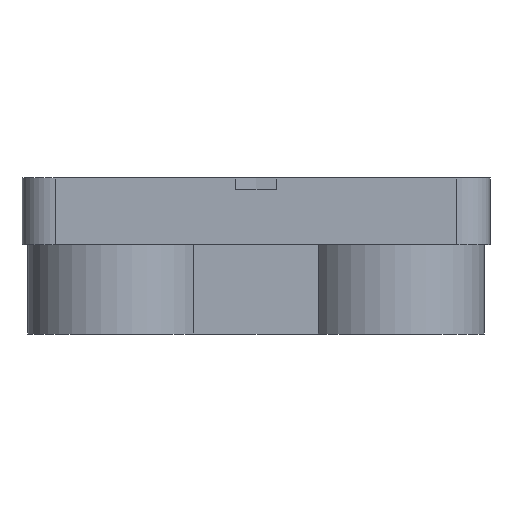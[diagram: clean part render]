
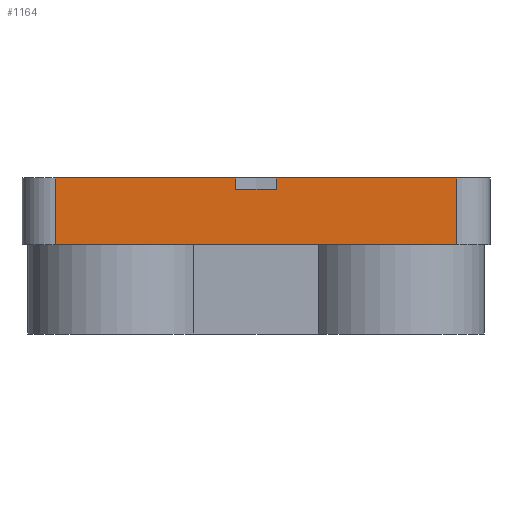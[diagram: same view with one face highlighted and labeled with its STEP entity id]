
A CAD part, left-side view. The second image highlights one B-rep face of the part: STEP entity #1164.
In plain terms, the highlighted planar face has unit normal (-1, 0, 0).
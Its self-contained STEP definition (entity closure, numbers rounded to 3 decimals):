
#279 = PLANE('',#280);
#280 = AXIS2_PLACEMENT_3D('',#281,#282,#283);
#281 = CARTESIAN_POINT('',(10.,0.,0.));
#282 = DIRECTION('',(0.,0.,1.));
#283 = DIRECTION('',(1.,0.,0.));
#599 = EDGE_CURVE('',#600,#602,#604,.T.);
#600 = VERTEX_POINT('',#601);
#601 = CARTESIAN_POINT('',(-20.,-18.,0.));
#602 = VERTEX_POINT('',#603);
#603 = CARTESIAN_POINT('',(-20.,18.,0.));
#604 = SURFACE_CURVE('',#605,(#609,#616),.PCURVE_S1.);
#605 = LINE('',#606,#607);
#606 = CARTESIAN_POINT('',(-20.,0.,0.));
#607 = VECTOR('',#608,1.);
#608 = DIRECTION('',(0.,1.,0.));
#609 = PCURVE('',#279,#610);
#610 = DEFINITIONAL_REPRESENTATION('',(#611),#615);
#611 = LINE('',#612,#613);
#612 = CARTESIAN_POINT('',(-30.,0.));
#613 = VECTOR('',#614,1.);
#614 = DIRECTION('',(0.,1.));
#615 = ( GEOMETRIC_REPRESENTATION_CONTEXT(2) 
PARAMETRIC_REPRESENTATION_CONTEXT() REPRESENTATION_CONTEXT('2D SPACE',''
  ) );
#616 = PCURVE('',#617,#622);
#617 = PLANE('',#618);
#618 = AXIS2_PLACEMENT_3D('',#619,#620,#621);
#619 = CARTESIAN_POINT('',(-20.,-18.,0.));
#620 = DIRECTION('',(-1.,0.,0.));
#621 = DIRECTION('',(0.,1.,0.));
#622 = DEFINITIONAL_REPRESENTATION('',(#623),#627);
#623 = LINE('',#624,#625);
#624 = CARTESIAN_POINT('',(18.,0.));
#625 = VECTOR('',#626,1.);
#626 = DIRECTION('',(1.,0.));
#627 = ( GEOMETRIC_REPRESENTATION_CONTEXT(2) 
PARAMETRIC_REPRESENTATION_CONTEXT() REPRESENTATION_CONTEXT('2D SPACE',''
  ) );
#650 = CYLINDRICAL_SURFACE('',#651,3.);
#651 = AXIS2_PLACEMENT_3D('',#652,#653,#654);
#652 = CARTESIAN_POINT('',(-17.,-18.,0.));
#653 = DIRECTION('',(0.,0.,-1.));
#654 = DIRECTION('',(-1.,0.,0.));
#850 = CYLINDRICAL_SURFACE('',#851,3.);
#851 = AXIS2_PLACEMENT_3D('',#852,#853,#854);
#852 = CARTESIAN_POINT('',(-17.,18.,0.));
#853 = DIRECTION('',(0.,0.,-1.));
#854 = DIRECTION('',(-1.,0.,0.));
#1129 = PLANE('',#1130);
#1130 = AXIS2_PLACEMENT_3D('',#1131,#1132,#1133);
#1131 = CARTESIAN_POINT('',(10.,0.,6.));
#1132 = DIRECTION('',(0.,0.,1.));
#1133 = DIRECTION('',(1.,0.,0.));
#1164 = ADVANCED_FACE('',(#1165),#617,.T.);
#1165 = FACE_BOUND('',#1166,.T.);
#1166 = EDGE_LOOP('',(#1167,#1168,#1191,#1219,#1245,#1271,#1297,#1320));
#1167 = ORIENTED_EDGE('',*,*,#599,.F.);
#1168 = ORIENTED_EDGE('',*,*,#1169,.T.);
#1169 = EDGE_CURVE('',#600,#1170,#1172,.T.);
#1170 = VERTEX_POINT('',#1171);
#1171 = CARTESIAN_POINT('',(-20.,-18.,6.));
#1172 = SURFACE_CURVE('',#1173,(#1177,#1184),.PCURVE_S1.);
#1173 = LINE('',#1174,#1175);
#1174 = CARTESIAN_POINT('',(-20.,-18.,0.));
#1175 = VECTOR('',#1176,1.);
#1176 = DIRECTION('',(0.,0.,1.));
#1177 = PCURVE('',#617,#1178);
#1178 = DEFINITIONAL_REPRESENTATION('',(#1179),#1183);
#1179 = LINE('',#1180,#1181);
#1180 = CARTESIAN_POINT('',(0.,0.));
#1181 = VECTOR('',#1182,1.);
#1182 = DIRECTION('',(0.,-1.));
#1183 = ( GEOMETRIC_REPRESENTATION_CONTEXT(2) 
PARAMETRIC_REPRESENTATION_CONTEXT() REPRESENTATION_CONTEXT('2D SPACE',''
  ) );
#1184 = PCURVE('',#650,#1185);
#1185 = DEFINITIONAL_REPRESENTATION('',(#1186),#1190);
#1186 = LINE('',#1187,#1188);
#1187 = CARTESIAN_POINT('',(6.283,0.));
#1188 = VECTOR('',#1189,1.);
#1189 = DIRECTION('',(0.,-1.));
#1190 = ( GEOMETRIC_REPRESENTATION_CONTEXT(2) 
PARAMETRIC_REPRESENTATION_CONTEXT() REPRESENTATION_CONTEXT('2D SPACE',''
  ) );
#1191 = ORIENTED_EDGE('',*,*,#1192,.T.);
#1192 = EDGE_CURVE('',#1170,#1193,#1195,.T.);
#1193 = VERTEX_POINT('',#1194);
#1194 = CARTESIAN_POINT('',(-20.,-1.8,6.));
#1195 = SURFACE_CURVE('',#1196,(#1200,#1207),.PCURVE_S1.);
#1196 = LINE('',#1197,#1198);
#1197 = CARTESIAN_POINT('',(-20.,0.,6.));
#1198 = VECTOR('',#1199,1.);
#1199 = DIRECTION('',(0.,1.,0.));
#1200 = PCURVE('',#617,#1201);
#1201 = DEFINITIONAL_REPRESENTATION('',(#1202),#1206);
#1202 = LINE('',#1203,#1204);
#1203 = CARTESIAN_POINT('',(18.,-6.));
#1204 = VECTOR('',#1205,1.);
#1205 = DIRECTION('',(1.,0.));
#1206 = ( GEOMETRIC_REPRESENTATION_CONTEXT(2) 
PARAMETRIC_REPRESENTATION_CONTEXT() REPRESENTATION_CONTEXT('2D SPACE',''
  ) );
#1207 = PCURVE('',#1208,#1213);
#1208 = PLANE('',#1209);
#1209 = AXIS2_PLACEMENT_3D('',#1210,#1211,#1212);
#1210 = CARTESIAN_POINT('',(10.,0.,6.));
#1211 = DIRECTION('',(0.,0.,1.));
#1212 = DIRECTION('',(1.,0.,0.));
#1213 = DEFINITIONAL_REPRESENTATION('',(#1214),#1218);
#1214 = LINE('',#1215,#1216);
#1215 = CARTESIAN_POINT('',(-30.,0.));
#1216 = VECTOR('',#1217,1.);
#1217 = DIRECTION('',(0.,1.));
#1218 = ( GEOMETRIC_REPRESENTATION_CONTEXT(2) 
PARAMETRIC_REPRESENTATION_CONTEXT() REPRESENTATION_CONTEXT('2D SPACE',''
  ) );
#1219 = ORIENTED_EDGE('',*,*,#1220,.T.);
#1220 = EDGE_CURVE('',#1193,#1221,#1223,.T.);
#1221 = VERTEX_POINT('',#1222);
#1222 = CARTESIAN_POINT('',(-20.,-1.8,5.));
#1223 = SURFACE_CURVE('',#1224,(#1228,#1234),.PCURVE_S1.);
#1224 = LINE('',#1225,#1226);
#1225 = CARTESIAN_POINT('',(-20.,-1.8,2.5));
#1226 = VECTOR('',#1227,1.);
#1227 = DIRECTION('',(0.,0.,-1.));
#1228 = PCURVE('',#617,#1229);
#1229 = DEFINITIONAL_REPRESENTATION('',(#1230),#1233);
#1230 = B_SPLINE_CURVE_WITH_KNOTS('',1,(#1231,#1232),.UNSPECIFIED.,.F.,
  .F.,(2,2),(-3.5,-2.5),.PIECEWISE_BEZIER_KNOTS.);
#1231 = CARTESIAN_POINT('',(16.2,-6.));
#1232 = CARTESIAN_POINT('',(16.2,-5.));
#1233 = ( GEOMETRIC_REPRESENTATION_CONTEXT(2) 
PARAMETRIC_REPRESENTATION_CONTEXT() REPRESENTATION_CONTEXT('2D SPACE',''
  ) );
#1234 = PCURVE('',#1235,#1240);
#1235 = PLANE('',#1236);
#1236 = AXIS2_PLACEMENT_3D('',#1237,#1238,#1239);
#1237 = CARTESIAN_POINT('',(-20.1,-1.8,5.));
#1238 = DIRECTION('',(0.,1.,0.));
#1239 = DIRECTION('',(0.,0.,1.));
#1240 = DEFINITIONAL_REPRESENTATION('',(#1241),#1244);
#1241 = B_SPLINE_CURVE_WITH_KNOTS('',1,(#1242,#1243),.UNSPECIFIED.,.F.,
  .F.,(2,2),(-3.5,-2.5),.PIECEWISE_BEZIER_KNOTS.);
#1242 = CARTESIAN_POINT('',(1.,0.1));
#1243 = CARTESIAN_POINT('',(0.,0.1));
#1244 = ( GEOMETRIC_REPRESENTATION_CONTEXT(2) 
PARAMETRIC_REPRESENTATION_CONTEXT() REPRESENTATION_CONTEXT('2D SPACE',''
  ) );
#1245 = ORIENTED_EDGE('',*,*,#1246,.T.);
#1246 = EDGE_CURVE('',#1221,#1247,#1249,.T.);
#1247 = VERTEX_POINT('',#1248);
#1248 = CARTESIAN_POINT('',(-20.,1.8,5.));
#1249 = SURFACE_CURVE('',#1250,(#1254,#1260),.PCURVE_S1.);
#1250 = LINE('',#1251,#1252);
#1251 = CARTESIAN_POINT('',(-20.,-9.9,5.));
#1252 = VECTOR('',#1253,1.);
#1253 = DIRECTION('',(0.,1.,-0.));
#1254 = PCURVE('',#617,#1255);
#1255 = DEFINITIONAL_REPRESENTATION('',(#1256),#1259);
#1256 = B_SPLINE_CURVE_WITH_KNOTS('',1,(#1257,#1258),.UNSPECIFIED.,.F.,
  .F.,(2,2),(8.1,11.7),.PIECEWISE_BEZIER_KNOTS.);
#1257 = CARTESIAN_POINT('',(16.2,-5.));
#1258 = CARTESIAN_POINT('',(19.8,-5.));
#1259 = ( GEOMETRIC_REPRESENTATION_CONTEXT(2) 
PARAMETRIC_REPRESENTATION_CONTEXT() REPRESENTATION_CONTEXT('2D SPACE',''
  ) );
#1260 = PCURVE('',#1261,#1266);
#1261 = PLANE('',#1262);
#1262 = AXIS2_PLACEMENT_3D('',#1263,#1264,#1265);
#1263 = CARTESIAN_POINT('',(-20.1,-1.8,5.));
#1264 = DIRECTION('',(0.,0.,1.));
#1265 = DIRECTION('',(1.,0.,0.));
#1266 = DEFINITIONAL_REPRESENTATION('',(#1267),#1270);
#1267 = B_SPLINE_CURVE_WITH_KNOTS('',1,(#1268,#1269),.UNSPECIFIED.,.F.,
  .F.,(2,2),(8.1,11.7),.PIECEWISE_BEZIER_KNOTS.);
#1268 = CARTESIAN_POINT('',(0.1,0.));
#1269 = CARTESIAN_POINT('',(0.1,3.6));
#1270 = ( GEOMETRIC_REPRESENTATION_CONTEXT(2) 
PARAMETRIC_REPRESENTATION_CONTEXT() REPRESENTATION_CONTEXT('2D SPACE',''
  ) );
#1271 = ORIENTED_EDGE('',*,*,#1272,.F.);
#1272 = EDGE_CURVE('',#1273,#1247,#1275,.T.);
#1273 = VERTEX_POINT('',#1274);
#1274 = CARTESIAN_POINT('',(-20.,1.8,6.));
#1275 = SURFACE_CURVE('',#1276,(#1280,#1286),.PCURVE_S1.);
#1276 = LINE('',#1277,#1278);
#1277 = CARTESIAN_POINT('',(-20.,1.8,2.5));
#1278 = VECTOR('',#1279,1.);
#1279 = DIRECTION('',(0.,0.,-1.));
#1280 = PCURVE('',#617,#1281);
#1281 = DEFINITIONAL_REPRESENTATION('',(#1282),#1285);
#1282 = B_SPLINE_CURVE_WITH_KNOTS('',1,(#1283,#1284),.UNSPECIFIED.,.F.,
  .F.,(2,2),(-3.5,-2.5),.PIECEWISE_BEZIER_KNOTS.);
#1283 = CARTESIAN_POINT('',(19.8,-6.));
#1284 = CARTESIAN_POINT('',(19.8,-5.));
#1285 = ( GEOMETRIC_REPRESENTATION_CONTEXT(2) 
PARAMETRIC_REPRESENTATION_CONTEXT() REPRESENTATION_CONTEXT('2D SPACE',''
  ) );
#1286 = PCURVE('',#1287,#1292);
#1287 = PLANE('',#1288);
#1288 = AXIS2_PLACEMENT_3D('',#1289,#1290,#1291);
#1289 = CARTESIAN_POINT('',(-20.1,1.8,5.));
#1290 = DIRECTION('',(0.,1.,0.));
#1291 = DIRECTION('',(0.,0.,1.));
#1292 = DEFINITIONAL_REPRESENTATION('',(#1293),#1296);
#1293 = B_SPLINE_CURVE_WITH_KNOTS('',1,(#1294,#1295),.UNSPECIFIED.,.F.,
  .F.,(2,2),(-3.5,-2.5),.PIECEWISE_BEZIER_KNOTS.);
#1294 = CARTESIAN_POINT('',(1.,0.1));
#1295 = CARTESIAN_POINT('',(0.,0.1));
#1296 = ( GEOMETRIC_REPRESENTATION_CONTEXT(2) 
PARAMETRIC_REPRESENTATION_CONTEXT() REPRESENTATION_CONTEXT('2D SPACE',''
  ) );
#1297 = ORIENTED_EDGE('',*,*,#1298,.T.);
#1298 = EDGE_CURVE('',#1273,#1299,#1301,.T.);
#1299 = VERTEX_POINT('',#1300);
#1300 = CARTESIAN_POINT('',(-20.,18.,6.));
#1301 = SURFACE_CURVE('',#1302,(#1306,#1313),.PCURVE_S1.);
#1302 = LINE('',#1303,#1304);
#1303 = CARTESIAN_POINT('',(-20.,0.,6.));
#1304 = VECTOR('',#1305,1.);
#1305 = DIRECTION('',(0.,1.,0.));
#1306 = PCURVE('',#617,#1307);
#1307 = DEFINITIONAL_REPRESENTATION('',(#1308),#1312);
#1308 = LINE('',#1309,#1310);
#1309 = CARTESIAN_POINT('',(18.,-6.));
#1310 = VECTOR('',#1311,1.);
#1311 = DIRECTION('',(1.,0.));
#1312 = ( GEOMETRIC_REPRESENTATION_CONTEXT(2) 
PARAMETRIC_REPRESENTATION_CONTEXT() REPRESENTATION_CONTEXT('2D SPACE',''
  ) );
#1313 = PCURVE('',#1129,#1314);
#1314 = DEFINITIONAL_REPRESENTATION('',(#1315),#1319);
#1315 = LINE('',#1316,#1317);
#1316 = CARTESIAN_POINT('',(-30.,0.));
#1317 = VECTOR('',#1318,1.);
#1318 = DIRECTION('',(0.,1.));
#1319 = ( GEOMETRIC_REPRESENTATION_CONTEXT(2) 
PARAMETRIC_REPRESENTATION_CONTEXT() REPRESENTATION_CONTEXT('2D SPACE',''
  ) );
#1320 = ORIENTED_EDGE('',*,*,#1321,.F.);
#1321 = EDGE_CURVE('',#602,#1299,#1322,.T.);
#1322 = SURFACE_CURVE('',#1323,(#1327,#1334),.PCURVE_S1.);
#1323 = LINE('',#1324,#1325);
#1324 = CARTESIAN_POINT('',(-20.,18.,0.));
#1325 = VECTOR('',#1326,1.);
#1326 = DIRECTION('',(0.,0.,1.));
#1327 = PCURVE('',#617,#1328);
#1328 = DEFINITIONAL_REPRESENTATION('',(#1329),#1333);
#1329 = LINE('',#1330,#1331);
#1330 = CARTESIAN_POINT('',(36.,0.));
#1331 = VECTOR('',#1332,1.);
#1332 = DIRECTION('',(0.,-1.));
#1333 = ( GEOMETRIC_REPRESENTATION_CONTEXT(2) 
PARAMETRIC_REPRESENTATION_CONTEXT() REPRESENTATION_CONTEXT('2D SPACE',''
  ) );
#1334 = PCURVE('',#850,#1335);
#1335 = DEFINITIONAL_REPRESENTATION('',(#1336),#1340);
#1336 = LINE('',#1337,#1338);
#1337 = CARTESIAN_POINT('',(0.,0.));
#1338 = VECTOR('',#1339,1.);
#1339 = DIRECTION('',(0.,-1.));
#1340 = ( GEOMETRIC_REPRESENTATION_CONTEXT(2) 
PARAMETRIC_REPRESENTATION_CONTEXT() REPRESENTATION_CONTEXT('2D SPACE',''
  ) );
